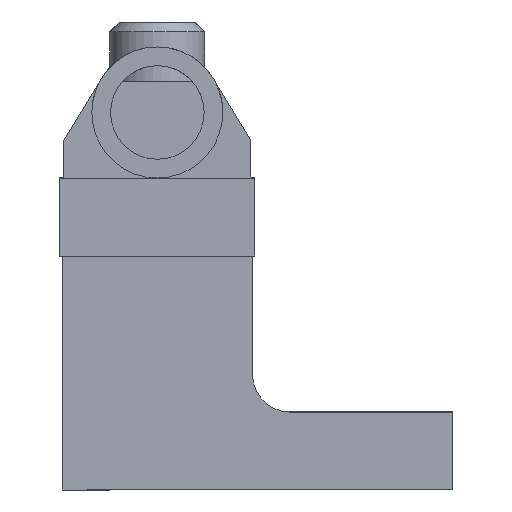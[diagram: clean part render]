
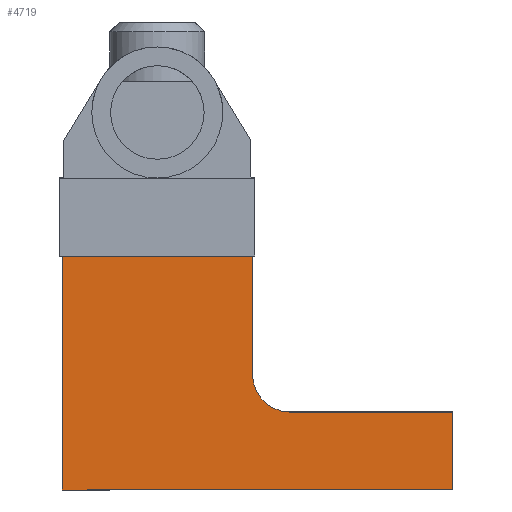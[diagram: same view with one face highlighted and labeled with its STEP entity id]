
A CAD part, front view. The second image highlights one B-rep face of the part: STEP entity #4719.
In plain terms, the highlighted planar face has unit normal (0, -1, 0) as drawn and (0, 0, -1) by its records, which use the part's own axes.
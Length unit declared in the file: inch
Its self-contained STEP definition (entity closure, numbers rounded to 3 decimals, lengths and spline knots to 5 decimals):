
#2248 = CARTESIAN_POINT ( 'NONE',  ( 1., 0., -0.335 ) ) ;
#2249 = DIRECTION ( 'NONE',  ( 1., 0., 0. ) ) ;
#2250 = VECTOR ( 'NONE', #2249, 39.37008 ) ;
#2251 = CARTESIAN_POINT ( 'NONE',  ( 1., 0., -0.335 ) ) ;
#2252 = LINE ( 'NONE', #2251, #2250 ) ;
#2367 = CARTESIAN_POINT ( 'NONE',  ( -0.25, 0., -0.335 ) ) ;
#2368 = CARTESIAN_POINT ( 'NONE',  ( -0.25, 0.25, -0.335 ) ) ;
#2369 = DIRECTION ( 'NONE',  ( 0., -1., 0. ) ) ;
#2370 = VECTOR ( 'NONE', #2369, 39.37008 ) ;
#2371 = CARTESIAN_POINT ( 'NONE',  ( -0.25, 0., -0.335 ) ) ;
#2372 = LINE ( 'NONE', #2371, #2370 ) ;
#2456 = DIRECTION ( 'NONE',  ( 1., 0., 0. ) ) ;
#2457 = DIRECTION ( 'NONE',  ( 0., 0., 1. ) ) ;
#2458 = CARTESIAN_POINT ( 'NONE',  ( 0.27, 0.37, -0.335 ) ) ;
#2459 = AXIS2_PLACEMENT_3D ( 'NONE', #2458, #2457, #2456 ) ;
#2460 = PLANE ( 'NONE',  #2459 ) ;
#2462 = FACE_OUTER_BOUND ( 'NONE', #4689, .T. ) ;
#2484 = CARTESIAN_POINT ( 'NONE',  ( 1., 0.75, -0.335 ) ) ;
#2485 = DIRECTION ( 'NONE',  ( 0., 1., 0. ) ) ;
#2486 = VECTOR ( 'NONE', #2485, 39.37008 ) ;
#2487 = CARTESIAN_POINT ( 'NONE',  ( 1., 0.75, -0.335 ) ) ;
#2488 = LINE ( 'NONE', #2487, #2486 ) ;
#2750 = CARTESIAN_POINT ( 'NONE',  ( 0.39, 0.37, -0.335 ) ) ;
#2767 = DIRECTION ( 'NONE',  ( 0., -1., 0. ) ) ;
#2768 = VECTOR ( 'NONE', #2767, 39.37008 ) ;
#2769 = CARTESIAN_POINT ( 'NONE',  ( 0.39, 0.37, -0.335 ) ) ;
#2770 = LINE ( 'NONE', #2769, #2768 ) ;
#2866 = CARTESIAN_POINT ( 'NONE',  ( 0.39, 0.75, -0.335 ) ) ;
#2867 = DIRECTION ( 'NONE',  ( -1., 0., 0. ) ) ;
#2868 = VECTOR ( 'NONE', #2867, 39.37008 ) ;
#2869 = CARTESIAN_POINT ( 'NONE',  ( 0.39, 0.75, -0.335 ) ) ;
#2870 = LINE ( 'NONE', #2869, #2868 ) ;
#2871 = DIRECTION ( 'NONE',  ( -1., 0., 0. ) ) ;
#2872 = VECTOR ( 'NONE', #2871, 39.37008 ) ;
#2873 = CARTESIAN_POINT ( 'NONE',  ( -0.25, 0.25, -0.335 ) ) ;
#2874 = LINE ( 'NONE', #2873, #2872 ) ;
#2956 = CARTESIAN_POINT ( 'NONE',  ( 0.27, 0.25, -0.335 ) ) ;
#2957 = DIRECTION ( 'NONE',  ( 1., 0., 0. ) ) ;
#2958 = DIRECTION ( 'NONE',  ( 0., 0., -1. ) ) ;
#2959 = CARTESIAN_POINT ( 'NONE',  ( 0.27, 0.37, -0.335 ) ) ;
#2960 = AXIS2_PLACEMENT_3D ( 'NONE', #2959, #2958, #2957 ) ;
#2965 = CIRCLE ( 'NONE', #2960, 0.12 ) ;
#4492 = ORIENTED_EDGE ( 'NONE', *, *, #4704, .F. ) ;
#4493 = ORIENTED_EDGE ( 'NONE', *, *, #4503, .F. ) ;
#4503 = EDGE_CURVE ( 'NONE', #4548, #4504, #2252, .T. ) ;
#4504 = VERTEX_POINT ( 'NONE', #2248 ) ;
#4546 = EDGE_CURVE ( 'NONE', #4547, #4548, #2372, .T. ) ;
#4547 = VERTEX_POINT ( 'NONE', #2368 ) ;
#4548 = VERTEX_POINT ( 'NONE', #2367 ) ;
#4689 = EDGE_LOOP ( 'NONE', ( #4720, #4721, #4722, #4723, #4724, #4492, #4493 ) ) ;
#4704 = EDGE_CURVE ( 'NONE', #4504, #4705, #2488, .T. ) ;
#4705 = VERTEX_POINT ( 'NONE', #2484 ) ;
#4719 = ADVANCED_FACE ( 'NONE', ( #2462 ), #2460, .F. ) ;
#4720 = ORIENTED_EDGE ( 'NONE', *, *, #4546, .F. ) ;
#4721 = ORIENTED_EDGE ( 'NONE', *, *, #4923, .F. ) ;
#4722 = ORIENTED_EDGE ( 'NONE', *, *, #4963, .F. ) ;
#4723 = ORIENTED_EDGE ( 'NONE', *, *, #4916, .F. ) ;
#4724 = ORIENTED_EDGE ( 'NONE', *, *, #4926, .F. ) ;
#4828 = VERTEX_POINT ( 'NONE', #2750 ) ;
#4916 = EDGE_CURVE ( 'NONE', #4927, #4828, #2770, .T. ) ;
#4923 = EDGE_CURVE ( 'NONE', #4964, #4547, #2874, .T. ) ;
#4926 = EDGE_CURVE ( 'NONE', #4705, #4927, #2870, .T. ) ;
#4927 = VERTEX_POINT ( 'NONE', #2866 ) ;
#4963 = EDGE_CURVE ( 'NONE', #4828, #4964, #2965, .T. ) ;
#4964 = VERTEX_POINT ( 'NONE', #2956 ) ;
